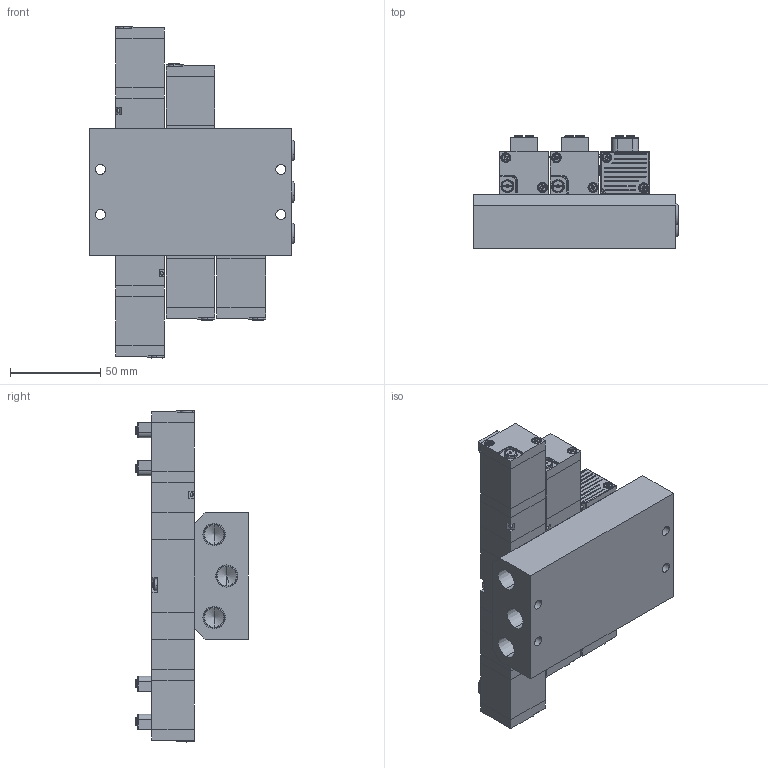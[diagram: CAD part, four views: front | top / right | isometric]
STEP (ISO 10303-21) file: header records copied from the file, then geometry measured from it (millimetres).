
FILE_DESCRIPTION (( 'STEP AP203' ), '1' );
FILE_NAME ('MFB#-PC06-02-L.STEP', '2016-02-04T05:35:02', ( 'Sam Lin' ), ( '' ), 'SwSTEP 2.0', 'SolidWorks 2013', '' );
FILE_SCHEMA (( 'CONFIG_CONTROL_DESIGN' ));
Length unit declared in the file: metre
Products named in the file (15): PC06-MARK; PCS2406-4; PCS2406-7-L; PCS2406-5; PCS2406-10; PCS2406-6; PCS2406-11-T=6; PC6-M3; MFB#-PC06-02; PCS2406-3-小圓珠; 承頭; PC6-M4; MFB#-PC06-02-L; PCS2406-8; PCS2406-9
Assembly tree (59 placements, depth 2):
  MFB#-PC06-02-L
    PCS2406-4  x3
    PCS2406-5  x5
    PCS2406-6
    PC6-M3  x12
    PCS2406-3-小圓珠  x6
    PC6-M4  x6
    PCS2406-8  x5
    PCS2406-9  x5
    PC06-MARK  x3
    PCS2406-7-L  x5
    PCS2406-10  x2
    PCS2406-11-T=6  x2
    MFB#-PC06-02
    承頭  x3
Bounding box: 113.51 x 62.5 x 184 mm (x, y, z)
Volume: 494128.2 mm3; surface area: 114191.1 mm2
Topology: 77 solids, 77 shells, 1527 faces, 3772 edges, 2376 vertices
Faces by surface type: plane 843, cylinder 268, bspline 227, cone 189
Entity records: 16064 total; most frequent: CARTESIAN_POINT 3978, DIRECTION 1908, ORIENTED_EDGE 1908, EDGE_CURVE 954, AXIS2_PLACEMENT_3D 683, VERTEX_POINT 628, VECTOR 542, LINE 542
